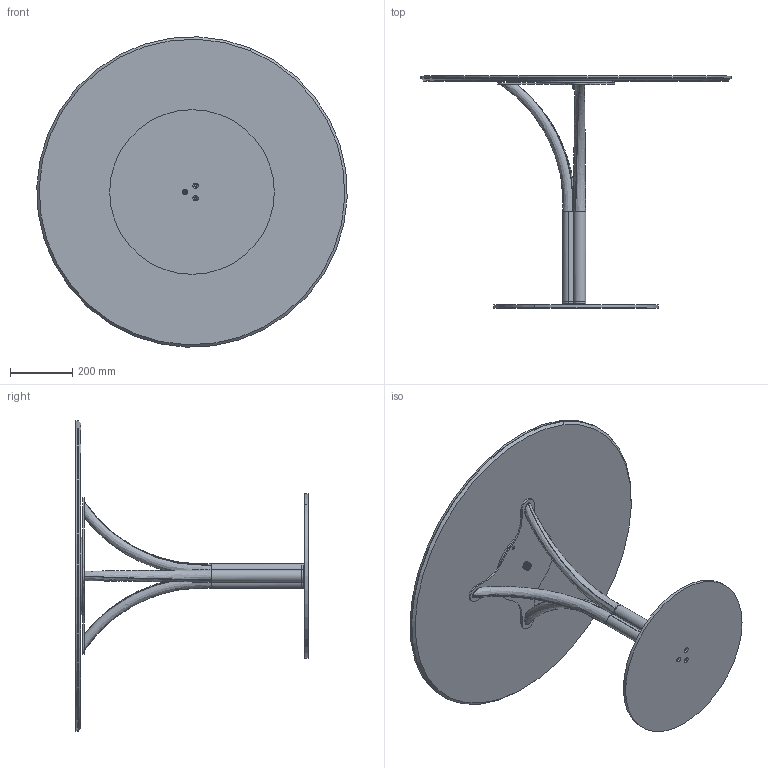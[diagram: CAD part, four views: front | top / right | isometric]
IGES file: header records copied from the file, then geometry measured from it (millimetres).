
Start section: SolidWorks IGES file using analytic representation for surfaces
Global section: file name: Y:\eforma\TECNICO\SOLIDWORKS\E-FORMA\5-TAVOLINI BISTRO\DODÒ\02 parts\DB30C.IGS; native system: SolidWorks 2022; preprocessor: SolidWorks 2022; author: eforma.tech; date: 240808.101338; units: millimetre
Bounding box: 999.3 x 747 x 999.3 mm (x, y, z)
Volume: 15864320.9 mm3; surface area: 4420041.5 mm2
Topology: 13 solids, 13 shells, 174 faces, 415 edges, 266 vertices
Faces by surface type: revolution 115, plane 44, bspline 15
